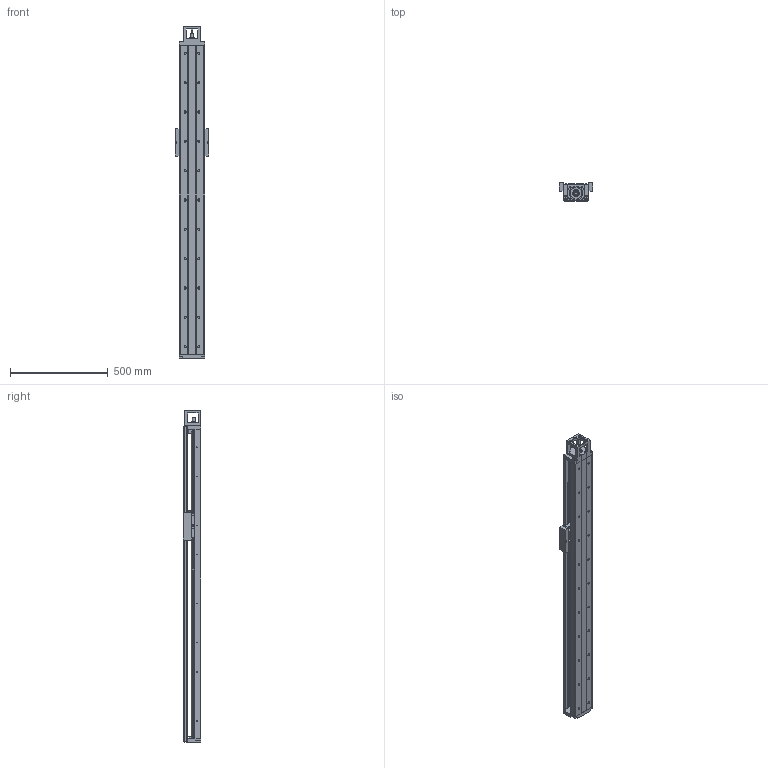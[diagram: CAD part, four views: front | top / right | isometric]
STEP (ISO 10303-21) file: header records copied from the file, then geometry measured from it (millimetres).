
FILE_DESCRIPTION(/* description */ (''),/* implementation_level */ '2;1');
FILE_NAME(/* name */ 'TKK130-1580A1F0C.stp',/* time_stamp */ '2016-12-22T09:59:47+08:00',/* author */ (''),/* organization */ (''),/* preprocessor_version */ 'ST-DEVELOPER v15',/* originating_system */ 'SIEMENS PLM Software NX 8.5',/* authorisation */ '');
FILE_SCHEMA (('AUTOMOTIVE_DESIGN { 1 0 10303 214 3 1 1 1 }'));
Length unit declared in the file: millimetre
Products named in the file (3): 022; 011; TKK130-1580A1F0C
Assembly tree (2 placements, depth 2):
  TKK130-1580A1F0C
    011
    022
Bounding box: 170 x 92 x 1698 mm (x, y, z)
Volume: 7306558.3 mm3; surface area: 1559952.8 mm2
Topology: 2 solids, 27 shells, 1116 faces, 3035 edges, 1983 vertices
Faces by surface type: plane 615, cylinder 345, cone 116, extrusion 33, bspline 6, torus 1
Full cylindrical faces by diameter (mm): 2.1 x16, 2.5 x8, 3.3 x41, 4.5 x20, 5 x23, 6.6 x10, 6.8 x12, 7 x2, 8 x16, 8.5 x4, 9 x8, 11 x30, 12 x4, 15 x1, 16.3 x1, 17 x24, 17.5 x4, 25 x1, 35 x2, 40 x3, 60.03 x1, 70.03 x1
Entity records: 33966 total; most frequent: CARTESIAN_POINT 7428, DIRECTION 5152, ORIENTED_EDGE 4850, EDGE_CURVE 2425, AXIS2_PLACEMENT_3D 1830, VERTEX_POINT 1809, EDGE_LOOP 1601, VECTOR 1492
